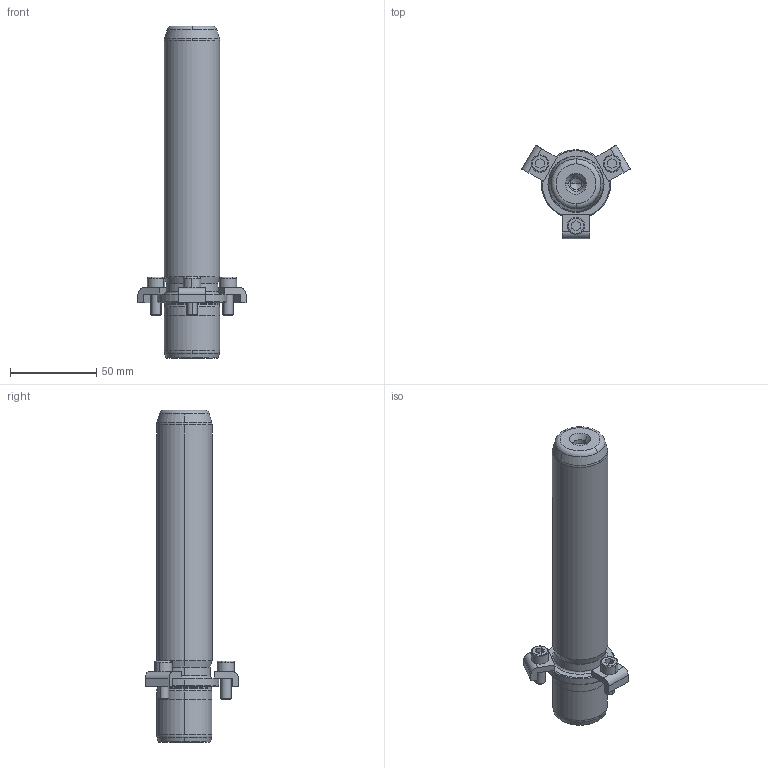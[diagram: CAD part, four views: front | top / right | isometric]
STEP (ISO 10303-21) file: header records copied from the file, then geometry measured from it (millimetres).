
FILE_DESCRIPTION((''),'2;1');
FILE_NAME('P21_032_160.stp','2008-12-23T10:33:56',(''),(''),'Mechanical Desktop 2009','Mechanical Desktop 2009',', , ');
FILE_SCHEMA(('CONFIG_CONTROL_DESIGN'));
Length unit declared in the file: millimetre
Products named in the file (2): Product; blmdl1
Assembly tree (1 placements, depth 2):
  Product
    blmdl1
Bounding box: 62.51 x 54.13 x 192 mm (x, y, z)
Volume: 157806.4 mm3; surface area: 27187.3 mm2
Topology: 7 solids, 7 shells, 163 faces, 399 edges, 257 vertices
Faces by surface type: plane 59, cylinder 44, cone 32, torus 14, bspline 14
Entity records: 5517 total; most frequent: CARTESIAN_POINT 1433, DIRECTION 908, ORIENTED_EDGE 790, EDGE_CURVE 395, AXIS2_PLACEMENT_3D 362, VERTEX_POINT 257, CIRCLE 211, VECTOR 184
